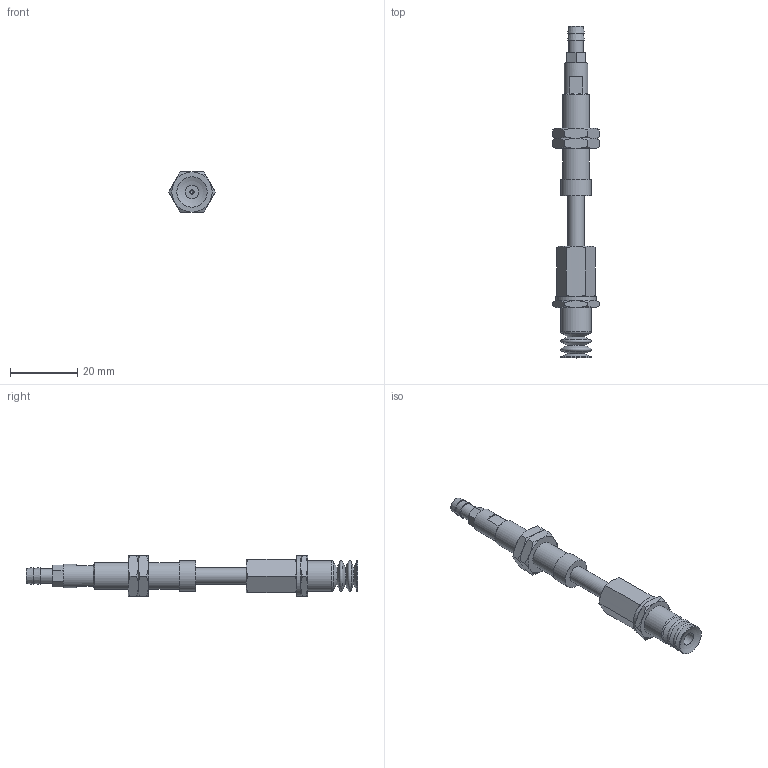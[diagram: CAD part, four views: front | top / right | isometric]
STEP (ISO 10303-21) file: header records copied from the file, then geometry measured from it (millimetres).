
FILE_DESCRIPTION(('STEP AP203'),'1');
FILE_NAME('-T.stp','2025-08-27T02:12:13',(' '),(' '),'Spatial InterOp 3D',' ',' ');
FILE_SCHEMA(('CONFIG_CONTROL_DESIGN'));
Length unit declared in the file: millimetre
Products named in the file (8): BNABPCTS-10-15-※-T; ADAPTER; NAPCTS-10-15-MBODY; Adapter_napc-10-T; Nut napc_s-10-15; NAPCTS-10-15-FBODY; BPCG-10-※; T
Assembly tree (8 placements, depth 2):
  BNABPCTS-10-15-※-T
    ADAPTER
    NAPCTS-10-15-MBODY
    Adapter_napc-10-T
    Nut napc_s-10-15  x2
    NAPCTS-10-15-FBODY
    BPCG-10-※
    T
Bounding box: 13.86 x 98.7 x 12 mm (x, y, z)
Volume: 5112.6 mm3; surface area: 5743.9 mm2
Topology: 8 solids, 8 shells, 160 faces, 322 edges, 189 vertices
Faces by surface type: cone 67, plane 61, cylinder 22, torus 8, sphere 2
Full cylindrical faces by diameter (mm): 1.25 x1, 3 x1, 4 x1, 4.134 x2, 4.3 x1, 5 x8, 7 x1, 7.188 x2, 8 x1, 9 x3, 12 x1
Entity records: 4050 total; most frequent: CARTESIAN_POINT 1067, DIRECTION 548, ORIENTED_EDGE 444, AXIS2_PLACEMENT_3D 252, EDGE_CURVE 222, EDGE_LOOP 206, FACE_OUTER_BOUND 168, VERTEX_POINT 159
